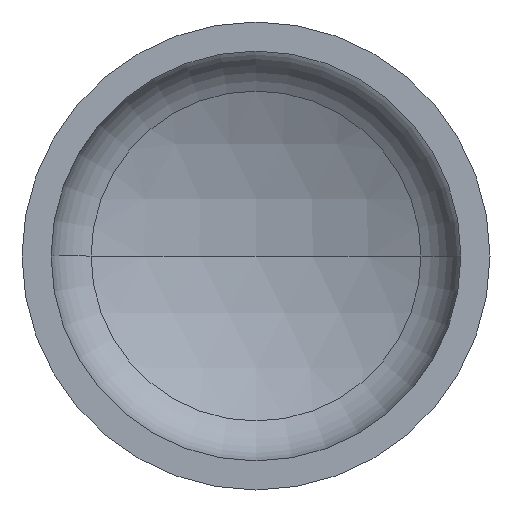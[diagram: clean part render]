
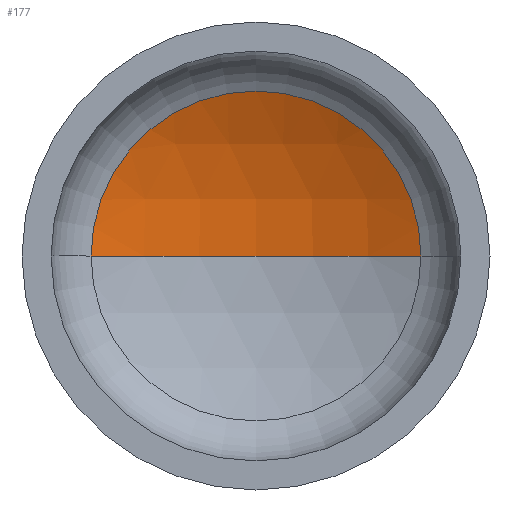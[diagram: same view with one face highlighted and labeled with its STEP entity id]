
A CAD part, front view. The second image highlights one B-rep face of the part: STEP entity #177.
In plain terms, the highlighted spherical face has radius 1520 mm.
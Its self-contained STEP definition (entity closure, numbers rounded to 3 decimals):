
#7 = VERTEX_POINT ( 'NONE', #280 ) ;
#16 = EDGE_LOOP ( 'NONE', ( #108, #63, #47 ) ) ;
#23 = AXIS2_PLACEMENT_3D ( 'NONE', #179, #163, #328 ) ;
#33 = AXIS2_PLACEMENT_3D ( 'NONE', #145, #395, #260 ) ;
#34 = DIRECTION ( 'NONE',  ( -1., 0., 0. ) ) ;
#47 = ORIENTED_EDGE ( 'NONE', *, *, #350, .T. ) ;
#54 = DIRECTION ( 'NONE',  ( 1., 0., 0. ) ) ;
#56 = CIRCLE ( 'NONE', #33, 669.789 ) ;
#63 = ORIENTED_EDGE ( 'NONE', *, *, #355, .T. ) ;
#77 = AXIS2_PLACEMENT_3D ( 'NONE', #197, #211, #34 ) ;
#83 = VERTEX_POINT ( 'NONE', #220 ) ;
#108 = ORIENTED_EDGE ( 'NONE', *, *, #387, .F. ) ;
#110 = VERTEX_POINT ( 'NONE', #257 ) ;
#145 = CARTESIAN_POINT ( 'NONE',  ( 0., 335.327, 0. ) ) ;
#163 = DIRECTION ( 'NONE',  ( 0., 0., -1. ) ) ;
#167 = CARTESIAN_POINT ( 'NONE',  ( 0., -1029.145, 0. ) ) ;
#177 = ADVANCED_FACE ( 'NONE', ( #212 ), #397, .F. ) ;
#179 = CARTESIAN_POINT ( 'NONE',  ( 0., -1029.145, 0. ) ) ;
#197 = CARTESIAN_POINT ( 'NONE',  ( 0., -1029.145, 0. ) ) ;
#211 = DIRECTION ( 'NONE',  ( 0., 0., -1. ) ) ;
#212 = FACE_OUTER_BOUND ( 'NONE', #16, .T. ) ;
#220 = CARTESIAN_POINT ( 'NONE',  ( 669.789, 335.327, 0. ) ) ;
#241 = AXIS2_PLACEMENT_3D ( 'NONE', #167, #264, #54 ) ;
#257 = CARTESIAN_POINT ( 'NONE',  ( -669.789, 335.327, 0. ) ) ;
#260 = DIRECTION ( 'NONE',  ( 1., 0., 0. ) ) ;
#264 = DIRECTION ( 'NONE',  ( 0., 0., 1. ) ) ;
#280 = CARTESIAN_POINT ( 'NONE',  ( 0., 490.855, 0. ) ) ;
#328 = DIRECTION ( 'NONE',  ( -1., 0., 0. ) ) ;
#350 = EDGE_CURVE ( 'NONE', #83, #110, #56, .T. ) ;
#355 = EDGE_CURVE ( 'NONE', #7, #83, #363, .T. ) ;
#363 = CIRCLE ( 'NONE', #23, 1520. ) ;
#387 = EDGE_CURVE ( 'NONE', #7, #110, #400, .T. ) ;
#395 = DIRECTION ( 'NONE',  ( 0., -1., 0. ) ) ;
#397 = SPHERICAL_SURFACE ( 'NONE', #77, 1520. ) ;
#400 = CIRCLE ( 'NONE', #241, 1520. ) ;
